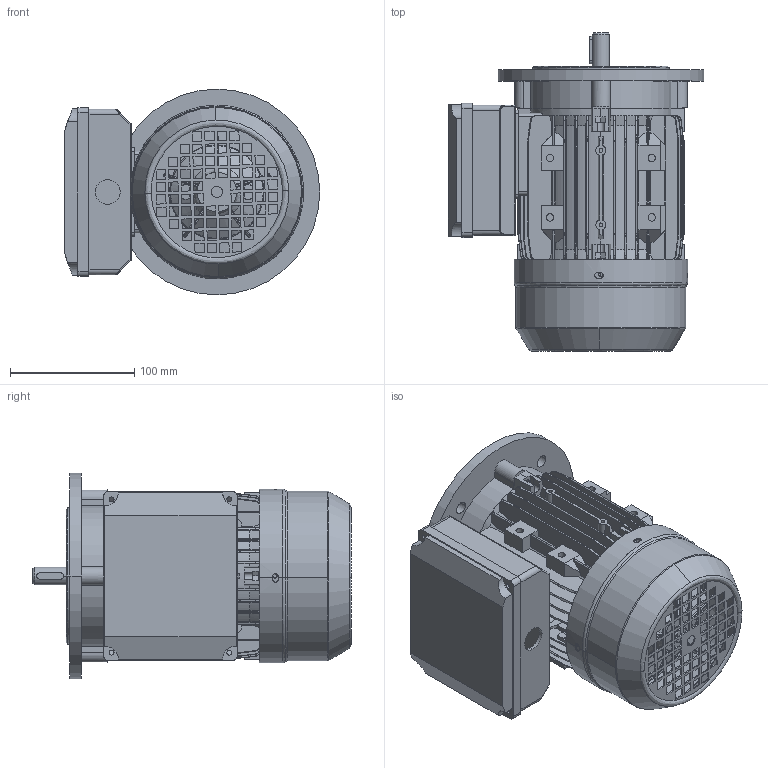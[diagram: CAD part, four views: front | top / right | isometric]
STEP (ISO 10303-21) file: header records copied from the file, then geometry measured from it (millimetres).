
FILE_DESCRIPTION (( 'STEP AP214' ), '1' );
FILE_NAME ('ML71_B5.STEP', '2013-04-24T10:38:41', ( 'Frank Wennekamp' ), ( '' ), 'SwSTEP 2.0', 'SolidWorks 2012', '' );
FILE_SCHEMA (( 'AUTOMOTIVE_DESIGN' ));
Length unit declared in the file: millimetre
Products named in the file (8): Klemmenkastendeckel_ML71; Klemmenkastenunterteil_ML71; Lüfterhaube_MS71; L黤terfl黦el_MS71; B5-Flansch_MS71; B-Lagerschild_MS71; Gehäuse_MS71L; ML71_B5
Assembly tree (7 placements, depth 2):
  ML71_B5
    Gehäuse_MS71L
    B-Lagerschild_MS71
    B5-Flansch_MS71
    L黤terfl黦el_MS71
    Lüfterhaube_MS71
    Klemmenkastenunterteil_ML71
    Klemmenkastendeckel_ML71
Bounding box: 205.91 x 256.71 x 165.81 mm (x, y, z)
Volume: 821881.4 mm3; surface area: 538656.1 mm2
Topology: 7 solids, 7 shells, 1773 faces, 4873 edges, 3168 vertices
Faces by surface type: plane 953, cylinder 511, cone 169, bspline 138, sphere 2
Entity records: 65457 total; most frequent: CARTESIAN_POINT 21262, ORIENTED_EDGE 9738, DIRECTION 8361, EDGE_CURVE 4869, VERTEX_POINT 3168, AXIS2_PLACEMENT_3D 2819, VECTOR 2723, LINE 2723
